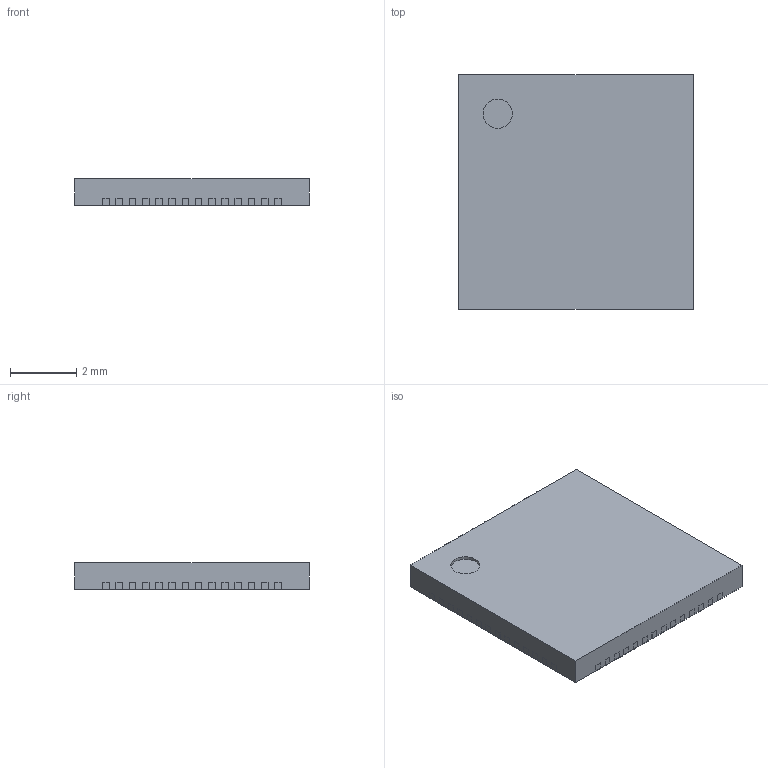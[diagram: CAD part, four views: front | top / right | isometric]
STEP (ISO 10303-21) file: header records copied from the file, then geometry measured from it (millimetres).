
FILE_DESCRIPTION(('Open CASCADE Model'),'2;1');
FILE_NAME('Open CASCADE Shape Model','2022-11-15T19:17:02',('Author'),( 'Open CASCADE'),'Open CASCADE STEP processor 6.8','Open CASCADE 6.8' ,'Unknown');
FILE_SCHEMA(('AUTOMOTIVE_DESIGN { 1 0 10303 214 1 1 1 1 }'));
Length unit declared in the file: millimetre
Products named in the file (7): QFN40P700X700X80_HS-57N.step; Open CASCADE STEP translator 6.8 85.1; Body; Open CASCADE STEP translator 6.8 85.2.1; Thermal_Shape; Pin_Shape; Open CASCADE STEP translator 6.8 85.4.1
Assembly tree (61 placements, depth 3):
  QFN40P700X700X80_HS-57N.step
    Open CASCADE STEP translator 6.8 85.1
    Body
      Open CASCADE STEP translator 6.8 85.2.1
    Thermal_Shape
    Pin_Shape  x56
      Open CASCADE STEP translator 6.8 85.4.1
Bounding box: 7.1 x 7.1 x 0.8 mm (x, y, z)
Volume: 40.3 mm3; surface area: 192.3 mm2
Topology: 58 solids, 59 shells, 800 faces, 1599 edges, 917 vertices
Faces by surface type: plane 799, cylinder 1
Full cylindrical faces by diameter (mm): 0.887 x1
Entity records: 1346 total; most frequent: DIRECTION 246, CARTESIAN_POINT 188, ORIENTED_EDGE 117, AXIS2_PLACEMENT_3D 95, PRODUCT_DEFINITION_SHAPE 68, CONTEXT_DEPENDENT_SHAPE_REPRESENTATION 61, ITEM_DEFINED_TRANSFORMATION 61, NEXT_ASSEMBLY_USAGE_OCCURRENCE 61
